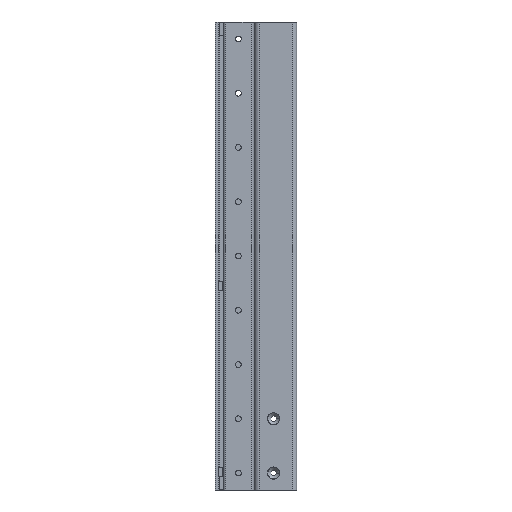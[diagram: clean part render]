
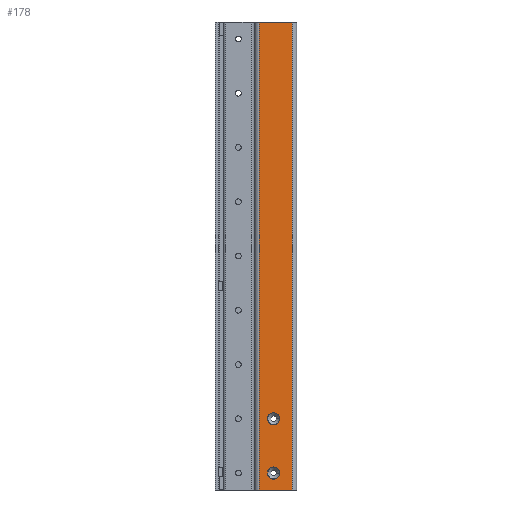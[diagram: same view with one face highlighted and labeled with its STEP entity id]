
A CAD part, left-side view. The second image highlights one B-rep face of the part: STEP entity #178.
In plain terms, the highlighted planar face has unit normal (-1, 0, 0).
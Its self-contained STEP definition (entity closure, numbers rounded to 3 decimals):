
#178=ADVANCED_FACE('',(#552,#553,#554),#555,.T.);
#552=FACE_BOUND('',#1146,.T.);
#553=FACE_BOUND('',#1147,.T.);
#554=FACE_OUTER_BOUND('',#1148,.T.);
#555=PLANE('',#1149);
#1146=EDGE_LOOP('',(#2289,#2290));
#1147=EDGE_LOOP('',(#2291,#2292));
#1148=EDGE_LOOP('',(#2293,#2294,#2295,#2296));
#1149=AXIS2_PLACEMENT_3D('',#2297,#2298,#2299);
#2289=ORIENTED_EDGE('',*,*,#3810,.T.);
#2290=ORIENTED_EDGE('',*,*,#4030,.T.);
#2291=ORIENTED_EDGE('',*,*,#3806,.T.);
#2292=ORIENTED_EDGE('',*,*,#4032,.T.);
#2293=ORIENTED_EDGE('',*,*,#4058,.T.);
#2294=ORIENTED_EDGE('',*,*,#4059,.F.);
#2295=ORIENTED_EDGE('',*,*,#4060,.T.);
#2296=ORIENTED_EDGE('',*,*,#4056,.T.);
#2297=CARTESIAN_POINT('',(-26.,-3.,0.0));
#2298=DIRECTION('',(-1.0,0.0,0.0));
#2299=DIRECTION('',(0.0,-1.0,0.0));
#3806=EDGE_CURVE('',#4534,#4531,#4535,.T.);
#3810=EDGE_CURVE('',#4542,#4539,#4543,.T.);
#4030=EDGE_CURVE('',#4539,#4542,#4908,.T.);
#4032=EDGE_CURVE('',#4531,#4534,#4910,.T.);
#4056=EDGE_CURVE('',#4951,#4949,#4952,.T.);
#4058=EDGE_CURVE('',#4949,#4954,#4955,.T.);
#4059=EDGE_CURVE('',#4956,#4954,#4957,.T.);
#4060=EDGE_CURVE('',#4956,#4951,#4958,.T.);
#4531=VERTEX_POINT('',#5729);
#4534=VERTEX_POINT('',#5733);
#4535=CIRCLE('',#5734,9.0);
#4539=VERTEX_POINT('',#5739);
#4542=VERTEX_POINT('',#5743);
#4543=CIRCLE('',#5744,9.0);
#4908=CIRCLE('',#6286,9.0);
#4910=CIRCLE('',#6288,9.0);
#4949=VERTEX_POINT('',#6345);
#4951=VERTEX_POINT('',#6347);
#4952=LINE('',#6348,#6349);
#4954=VERTEX_POINT('',#6351);
#4955=LINE('',#6352,#6353);
#4956=VERTEX_POINT('',#6354);
#4957=LINE('',#6355,#6356);
#4958=LINE('',#6357,#6358);
#5729=CARTESIAN_POINT('',(-26.,0.,34.0));
#5733=CARTESIAN_POINT('',(-26.,0.,16.0));
#5734=AXIS2_PLACEMENT_3D('',#7410,#7411,#7412);
#5739=CARTESIAN_POINT('',(-26.,0.,114.0));
#5743=CARTESIAN_POINT('',(-26.,0.,96.0));
#5744=AXIS2_PLACEMENT_3D('',#7418,#7419,#7420);
#6286=AXIS2_PLACEMENT_3D('',#7724,#7725,#7726);
#6288=AXIS2_PLACEMENT_3D('',#7730,#7731,#7732);
#6345=CARTESIAN_POINT('',(-26.,-27.5,690.0));
#6347=CARTESIAN_POINT('',(-26.,-27.5,0.0));
#6348=CARTESIAN_POINT('',(-26.,-27.5,0.0));
#6349=VECTOR('',#7766,1.0);
#6351=CARTESIAN_POINT('',(-26.,21.5,690.0));
#6352=CARTESIAN_POINT('',(-26.,21.5,690.0));
#6353=VECTOR('',#7770,1.0);
#6354=CARTESIAN_POINT('',(-26.,21.5,0.0));
#6355=CARTESIAN_POINT('',(-26.,21.5,0.0));
#6356=VECTOR('',#7771,1.0);
#6357=CARTESIAN_POINT('',(-26.,21.5,0.0));
#6358=VECTOR('',#7772,1.0);
#7410=CARTESIAN_POINT('',(-26.,0.0,25.0));
#7411=DIRECTION('',(1.0,0.0,-0.0));
#7412=DIRECTION('',(0.0,0.0,1.0));
#7418=CARTESIAN_POINT('',(-26.,0.0,105.0));
#7419=DIRECTION('',(1.0,0.0,-0.0));
#7420=DIRECTION('',(0.0,0.0,1.0));
#7724=CARTESIAN_POINT('',(-26.,0.0,105.0));
#7725=DIRECTION('',(1.0,0.0,-0.0));
#7726=DIRECTION('',(0.0,0.0,1.0));
#7730=CARTESIAN_POINT('',(-26.,0.0,25.0));
#7731=DIRECTION('',(1.0,0.0,-0.0));
#7732=DIRECTION('',(0.0,0.0,1.0));
#7766=DIRECTION('',(0.0,0.0,1.0));
#7770=DIRECTION('',(0.0,1.0,0.0));
#7771=DIRECTION('',(0.0,0.0,1.0));
#7772=DIRECTION('',(0.0,-1.0,0.0));
